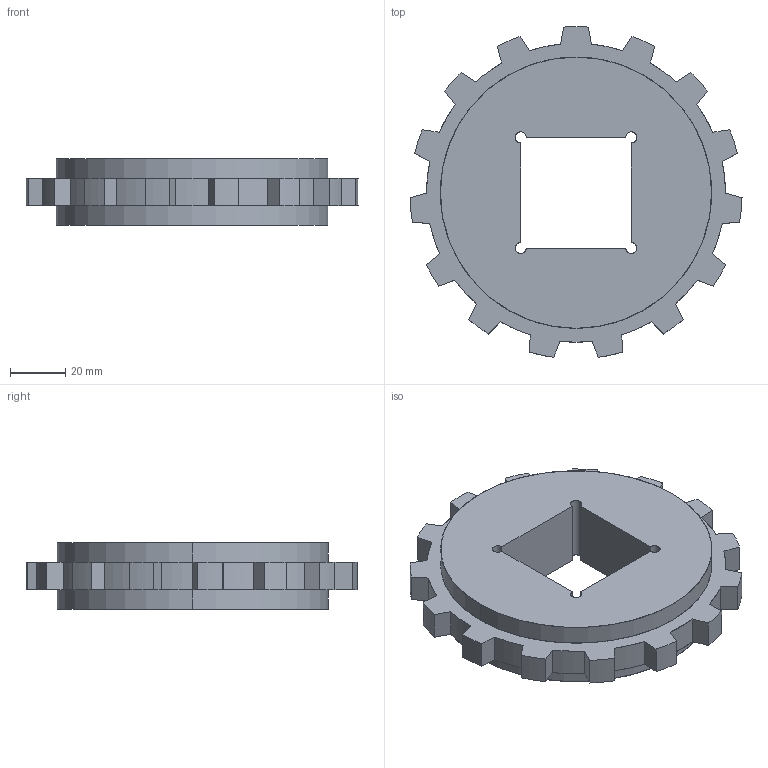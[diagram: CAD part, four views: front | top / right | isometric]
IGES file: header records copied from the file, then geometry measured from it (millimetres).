
Start section: SolidWorks IGES file using analytic representation for surfaces
Global section: file name: C:\Documents and Settings\URETIM3\Desktop\yeni katalog tolgay\381 D40 Z15.IGS; native system: SolidWorks 2006 by SolidWorks Corporation; preprocessor: SolidWorks 2006 by SolidWorks Corporation; author: URETIM3; date: 061106.140538; units: millimetre
Bounding box: 119.95 x 119.44 x 24 mm (x, y, z)
Surface area: 30468.9 mm2 (no closed solid volume)
Topology: 0 solids, 0 shells, 79 faces, 876 edges, 876 vertices
Faces by surface type: revolution 41, bspline 38
